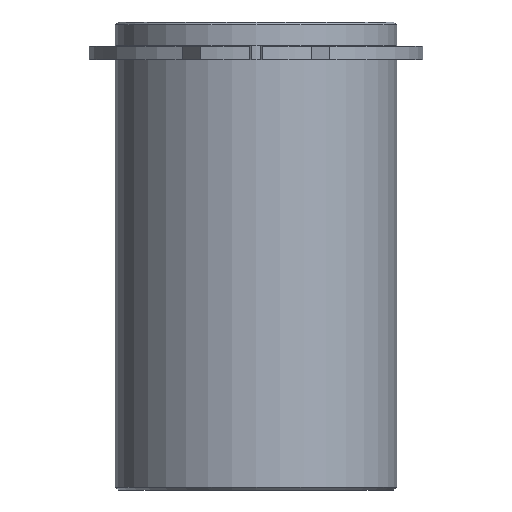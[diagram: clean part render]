
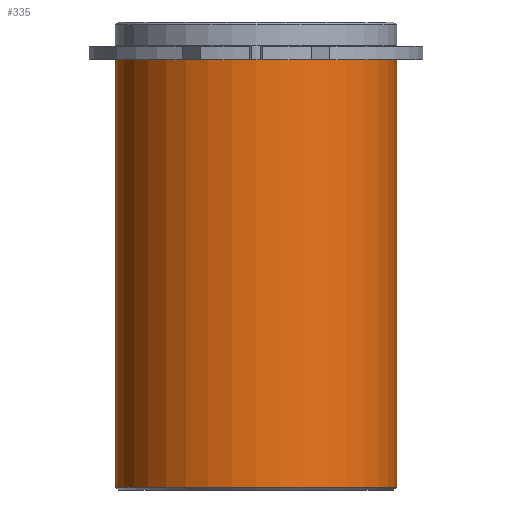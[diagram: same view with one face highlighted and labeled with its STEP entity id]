
A CAD part, front view. The second image highlights one B-rep face of the part: STEP entity #335.
In plain terms, the highlighted cylindrical face has radius 15.625 mm (diameter 31.25 mm), a partial arc.
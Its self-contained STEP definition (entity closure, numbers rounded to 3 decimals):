
#294=CARTESIAN_POINT('',(0.0,0.,-23.75));
#295=DIRECTION('',(0.0,0.,1.0));
#296=DIRECTION('',(1.0,0.0,0.0));
#297=AXIS2_PLACEMENT_3D('',#294,#295,#296);
#298=CYLINDRICAL_SURFACE('',#297,15.625);
#299=CARTESIAN_POINT('',(15.625,0.0,0.0));
#300=VERTEX_POINT('',#299);
#301=CARTESIAN_POINT('',(15.625,0.,-47.5));
#302=VERTEX_POINT('',#301);
#303=CARTESIAN_POINT('',(15.625,0.0,0.0));
#304=DIRECTION('',(0.0,0.0,-1.0));
#305=VECTOR('',#304,47.5);
#306=LINE('',#303,#305);
#307=EDGE_CURVE('',#300,#302,#306,.T.);
#308=ORIENTED_EDGE('',*,*,#307,.F.);
#309=CARTESIAN_POINT('',(-15.625,0.,0.0));
#310=VERTEX_POINT('',#309);
#311=CARTESIAN_POINT('',(0.0,0.0,0.0));
#312=DIRECTION('',(0.0,0.0,1.0));
#313=DIRECTION('',(1.0,0.0,0.0));
#314=AXIS2_PLACEMENT_3D('',#311,#312,#313);
#315=CIRCLE('',#314,15.625);
#316=EDGE_CURVE('',#310,#300,#315,.T.);
#317=ORIENTED_EDGE('',*,*,#316,.F.);
#318=CARTESIAN_POINT('',(-15.625,0.,-47.5));
#319=VERTEX_POINT('',#318);
#320=CARTESIAN_POINT('',(-15.625,0.,0.0));
#321=DIRECTION('',(0.0,0.0,-1.0));
#322=VECTOR('',#321,47.5);
#323=LINE('',#320,#322);
#324=EDGE_CURVE('',#310,#319,#323,.T.);
#325=ORIENTED_EDGE('',*,*,#324,.T.);
#326=CARTESIAN_POINT('',(0.0,0.,-47.5));
#327=DIRECTION('',(0.0,0.0,1.0));
#328=DIRECTION('',(1.0,0.0,0.0));
#329=AXIS2_PLACEMENT_3D('',#326,#327,#328);
#330=CIRCLE('',#329,15.625);
#331=EDGE_CURVE('',#319,#302,#330,.T.);
#332=ORIENTED_EDGE('',*,*,#331,.T.);
#333=EDGE_LOOP('',(#308,#317,#325,#332));
#334=FACE_OUTER_BOUND('',#333,.T.);
#335=ADVANCED_FACE('',(#334),#298,.T.);
